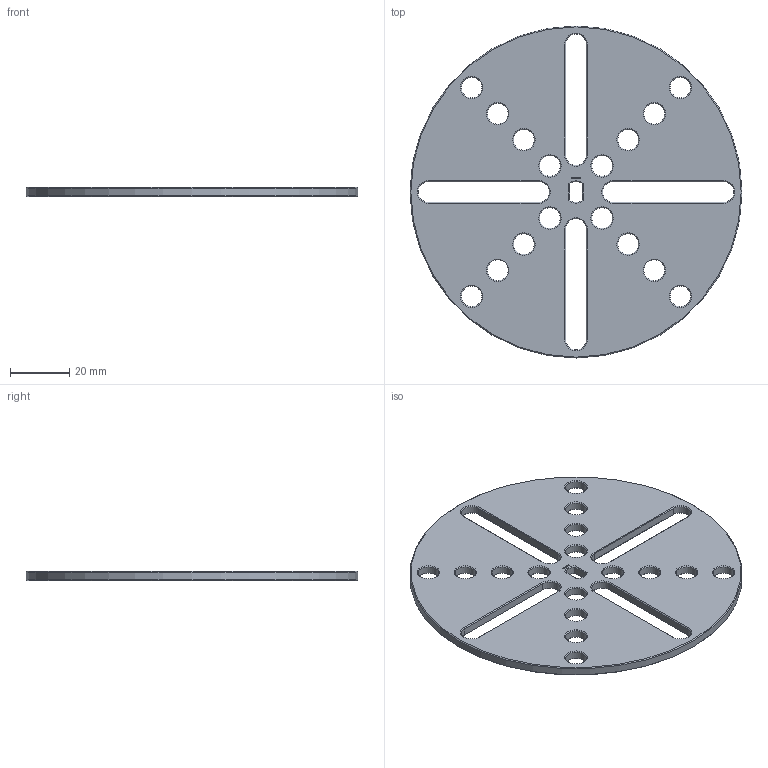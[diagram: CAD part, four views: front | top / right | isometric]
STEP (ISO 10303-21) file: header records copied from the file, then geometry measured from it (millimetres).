
FILE_DESCRIPTION(/* description */ (''),/* implementation_level */ '2;1');
FILE_NAME(/* name */ '/Users/paulokiefe/Desktop/STEMFIE/Fasteners/Washers/Fixed/Washer WSR FXD BU0.25x9.00 - SPN-WSR-0033 v1.step',/* time_stamp */ '2020-09-27T23:22:56+02:00',/* author */ (''),/* organization */ (''),/* preprocessor_version */ 'ST-DEVELOPER v18.1',/* originating_system */ 'Autodesk Translation Framework v9.3.0.1241',/* authorisation */ '');
FILE_SCHEMA (('AUTOMOTIVE_DESIGN { 1 0 10303 214 3 1 1 }'));
Length unit declared in the file: millimetre
Products named in the file (1): Washer WSR FXD BU0.25x9.00 - SPN-WSR-0033
Bounding box: 112.5 x 112.5 x 3.12 mm (x, y, z)
Volume: 25185.7 mm3; surface area: 19277.9 mm2
Topology: 1 solids, 1 shells, 357 faces, 955 edges, 612 vertices
Faces by surface type: plane 276, cone 54, cylinder 27
Full cylindrical faces by diameter (mm): 7 x16, 112.5 x1
Entity records: 11030 total; most frequent: CARTESIAN_POINT 1949, ORIENTED_EDGE 1910, DIRECTION 1771, EDGE_CURVE 955, LINE 839, VECTOR 839, VERTEX_POINT 612, AXIS2_PLACEMENT_3D 466
